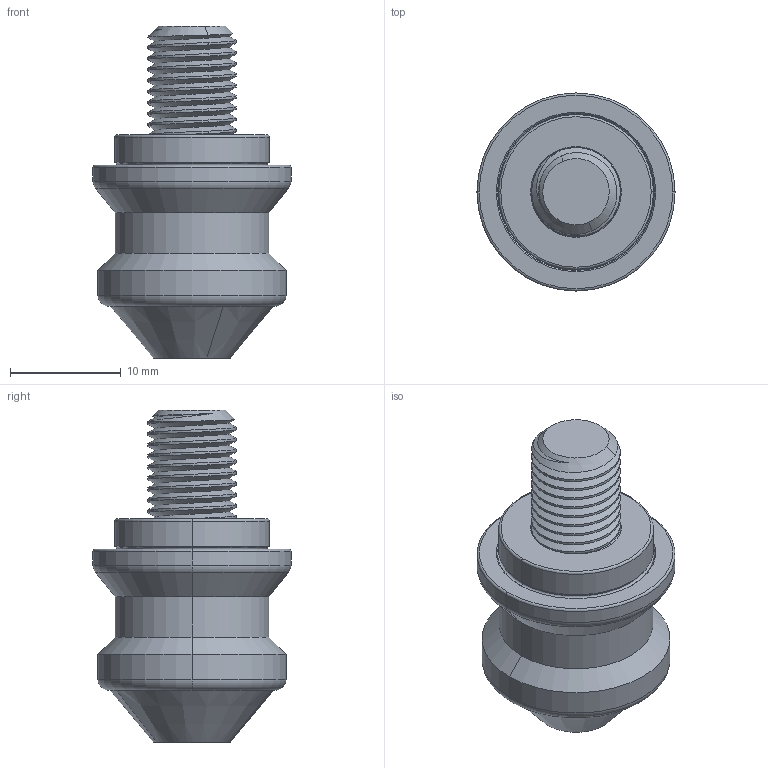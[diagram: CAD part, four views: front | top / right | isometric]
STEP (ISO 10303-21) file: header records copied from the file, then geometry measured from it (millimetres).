
FILE_DESCRIPTION (( 'STEP AP214' ), '1' );
FILE_NAME ('Q5嶺隊.STEP', '2019-03-09T09:25:13', ( '' ), ( '' ), 'SwSTEP 2.0', 'SolidWorks 2018', '' );
FILE_SCHEMA (( 'AUTOMOTIVE_DESIGN' ));
Length unit declared in the file: millimetre
Products named in the file (1): Q5嶺隊
Bounding box: 17.9 x 17.9 x 30 mm (x, y, z)
Volume: 3741.9 mm3; surface area: 2891.1 mm2
Topology: 2 solids, 2 shells, 91 faces, 213 edges, 128 vertices
Faces by surface type: cylinder 40, cone 19, torus 16, plane 14, bspline 2
Entity records: 5085 total; most frequent: CARTESIAN_POINT 2079, ORIENTED_EDGE 422, DIRECTION 412, EDGE_CURVE 211, AXIS2_PLACEMENT_3D 166, VERTEX_POINT 128, EDGE_LOOP 97, UNCERTAINTY_MEASURE_WITH_UNIT 95
